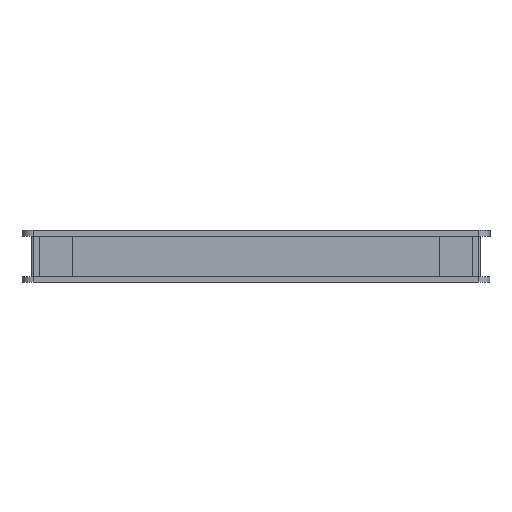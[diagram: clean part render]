
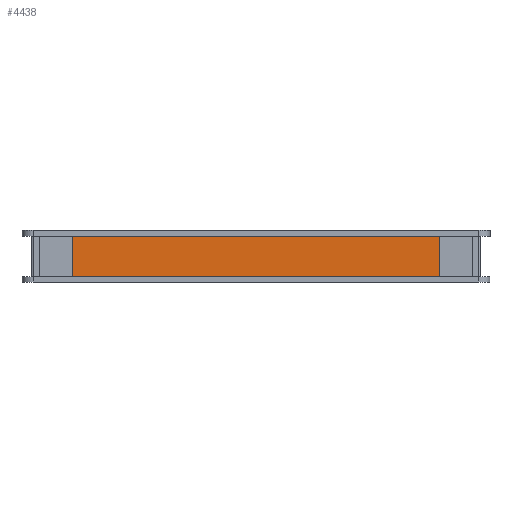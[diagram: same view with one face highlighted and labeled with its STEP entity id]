
A CAD part, left-side view. The second image highlights one B-rep face of the part: STEP entity #4438.
In plain terms, the highlighted planar face has unit normal (-1, 0, 0).
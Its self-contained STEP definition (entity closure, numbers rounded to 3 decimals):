
#440 = CARTESIAN_POINT ( 'NONE',  ( -425.983, -173.14, -92.045 ) ) ;
#1651 = AXIS2_PLACEMENT_3D ( 'NONE', #5979, #3551, #22208 ) ;
#1784 = CARTESIAN_POINT ( 'NONE',  ( -425.983, 242.86, -131.045 ) ) ;
#1935 = ORIENTED_EDGE ( 'NONE', *, *, #27014, .T. ) ;
#1996 = ORIENTED_EDGE ( 'NONE', *, *, #22563, .T. ) ;
#3488 = LINE ( 'NONE', #440, #26530 ) ;
#3551 = DIRECTION ( 'NONE',  ( 1., 0., 0. ) ) ;
#3877 = EDGE_CURVE ( 'NONE', #25659, #11065, #8630, .T. ) ;
#4322 = EDGE_CURVE ( 'NONE', #14237, #25659, #3488, .T. ) ;
#4438 = ADVANCED_FACE ( 'NONE', ( #11863 ), #17512, .F. ) ;
#4797 = LINE ( 'NONE', #20765, #22998 ) ;
#5979 = CARTESIAN_POINT ( 'NONE',  ( -425.983, 34.86, -111.545 ) ) ;
#8630 = LINE ( 'NONE', #22660, #20322 ) ;
#9261 = DIRECTION ( 'NONE',  ( 0., -1., 0. ) ) ;
#10024 = CARTESIAN_POINT ( 'NONE',  ( -425.983, -173.14, -92.045 ) ) ;
#11065 = VERTEX_POINT ( 'NONE', #15756 ) ;
#11863 = FACE_OUTER_BOUND ( 'NONE', #12919, .T. ) ;
#11901 = LINE ( 'NONE', #25728, #16650 ) ;
#12919 = EDGE_LOOP ( 'NONE', ( #1935, #1996, #22569, #18601 ) ) ;
#13625 = CARTESIAN_POINT ( 'NONE',  ( -425.983, -173.14, -131.045 ) ) ;
#14237 = VERTEX_POINT ( 'NONE', #13625 ) ;
#15756 = CARTESIAN_POINT ( 'NONE',  ( -425.983, 242.86, -92.045 ) ) ;
#16650 = VECTOR ( 'NONE', #9261, 1000. ) ;
#17512 = PLANE ( 'NONE',  #1651 ) ;
#17551 = DIRECTION ( 'NONE',  ( 0., 1., 0. ) ) ;
#18601 = ORIENTED_EDGE ( 'NONE', *, *, #3877, .T. ) ;
#20322 = VECTOR ( 'NONE', #17551, 1000. ) ;
#20765 = CARTESIAN_POINT ( 'NONE',  ( -425.983, 242.86, -92.045 ) ) ;
#21512 = DIRECTION ( 'NONE',  ( 0., 0., 1. ) ) ;
#22208 = DIRECTION ( 'NONE',  ( 0., -1., 0. ) ) ;
#22563 = EDGE_CURVE ( 'NONE', #28716, #14237, #11901, .T. ) ;
#22569 = ORIENTED_EDGE ( 'NONE', *, *, #4322, .T. ) ;
#22660 = CARTESIAN_POINT ( 'NONE',  ( -425.983, -173.14, -92.045 ) ) ;
#22998 = VECTOR ( 'NONE', #27639, 1000. ) ;
#25659 = VERTEX_POINT ( 'NONE', #10024 ) ;
#25728 = CARTESIAN_POINT ( 'NONE',  ( -425.983, -173.14, -131.045 ) ) ;
#26530 = VECTOR ( 'NONE', #21512, 1000. ) ;
#27014 = EDGE_CURVE ( 'NONE', #11065, #28716, #4797, .T. ) ;
#27639 = DIRECTION ( 'NONE',  ( 0., 0., -1. ) ) ;
#28716 = VERTEX_POINT ( 'NONE', #1784 ) ;
